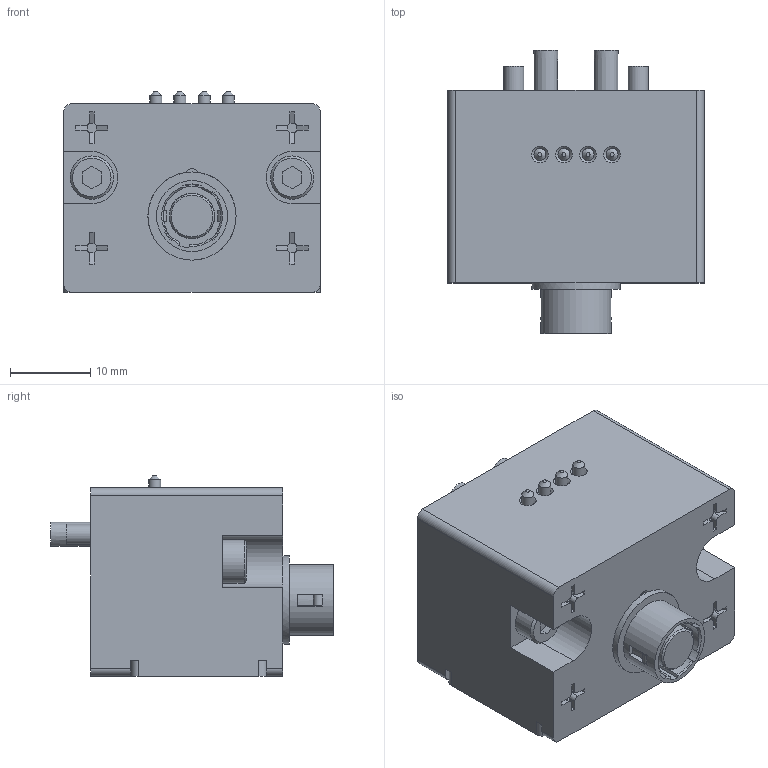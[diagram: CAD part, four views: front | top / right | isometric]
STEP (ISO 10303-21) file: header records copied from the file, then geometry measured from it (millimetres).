
FILE_DESCRIPTION(('STEP AP214'),'1');
FILE_NAME('KHF-3HS-D14C_ver1.stp','2026-04-24T01:52:45',(' '),(' '),'Spatial InterOp 3D',' ',' ');
FILE_SCHEMA(('AUTOMOTIVE_DESIGN { 1 0 10303 214 1 1 1 1 }'));
Length unit declared in the file: millimetre
Products named in the file (1): KHF-3HS-D14C_ver1
Bounding box: 32 x 35.3 x 25 mm (x, y, z)
Volume: 17718.2 mm3; surface area: 6479.2 mm2
Topology: 1 solids, 21 shells, 542 faces, 1351 edges, 872 vertices
Faces by surface type: plane 386, cylinder 120, cone 36
Full cylindrical faces by diameter (mm): 0.8 x2, 1.5 x4, 2.15 x6, 2.5 x8, 3 x8, 3.4 x2, 3.5 x2, 5.41 x2, 5.6 x1, 5.7 x1, 8 x1, 8.85 x1, 11 x1
Entity records: 21300 total; most frequent: CARTESIAN_POINT 2703, DIRECTION 2657, ORIENTED_EDGE 2518, EDGE_CURVE 1259, LINE 923, VECTOR 923, AXIS2_PLACEMENT_3D 867, VERTEX_POINT 851
